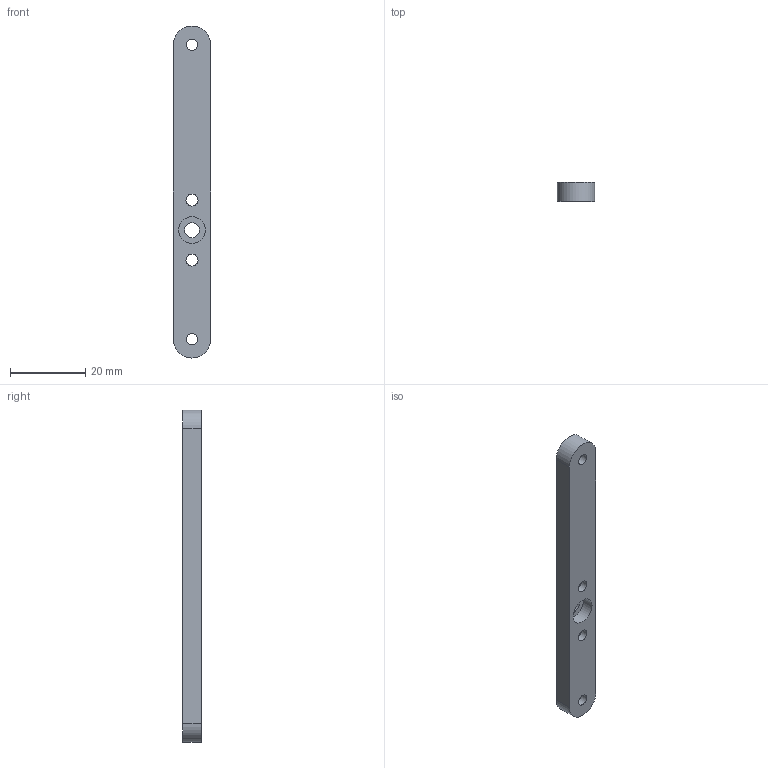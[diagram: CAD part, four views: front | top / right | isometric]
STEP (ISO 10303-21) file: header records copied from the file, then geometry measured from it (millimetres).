
FILE_DESCRIPTION(/* description */ (''),/* implementation_level */ '2;1');
FILE_NAME(/* name */ '4-34-1 Steering arm.step',/* time_stamp */ '2025-05-10T22:20:01+02:00',/* author */ (''),/* organization */ (''),/* preprocessor_version */ 'ST-DEVELOPER v20.1',/* originating_system */ 'Autodesk Translation Framework v14.4.0.0',/* authorisation */ '');
FILE_SCHEMA (('AUTOMOTIVE_DESIGN { 1 0 10303 214 3 1 1 }'));
Length unit declared in the file: millimetre
Products named in the file (1): Steering arm
Bounding box: 10 x 5 x 88.5 mm (x, y, z)
Volume: 3707.4 mm3; surface area: 3005.7 mm2
Topology: 1 solids, 1 shells, 31 faces, 72 edges, 48 vertices
Faces by surface type: plane 21, cylinder 10
Full cylindrical faces by diameter (mm): 3 x2, 3.2 x2, 4 x1, 7.1 x3
Entity records: 946 total; most frequent: DIRECTION 156, CARTESIAN_POINT 152, ORIENTED_EDGE 144, EDGE_CURVE 72, LINE 52, VECTOR 52, AXIS2_PLACEMENT_3D 52, VERTEX_POINT 48
